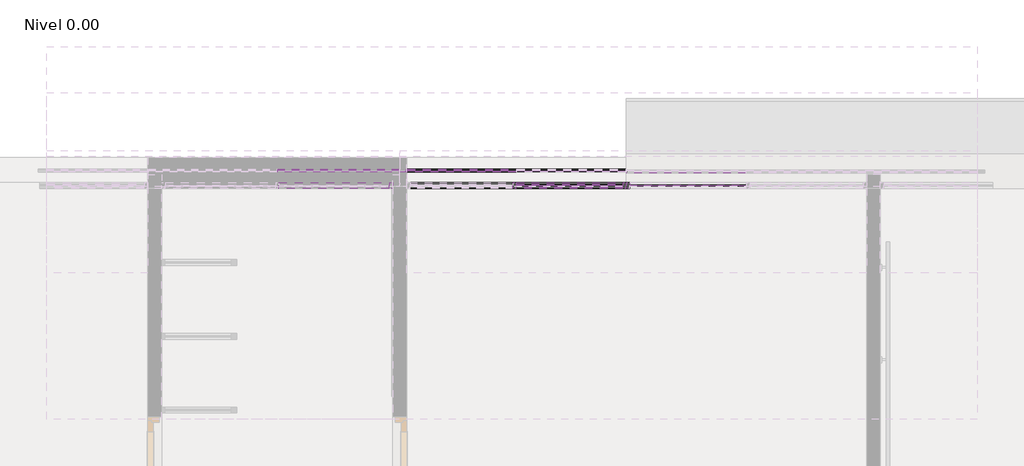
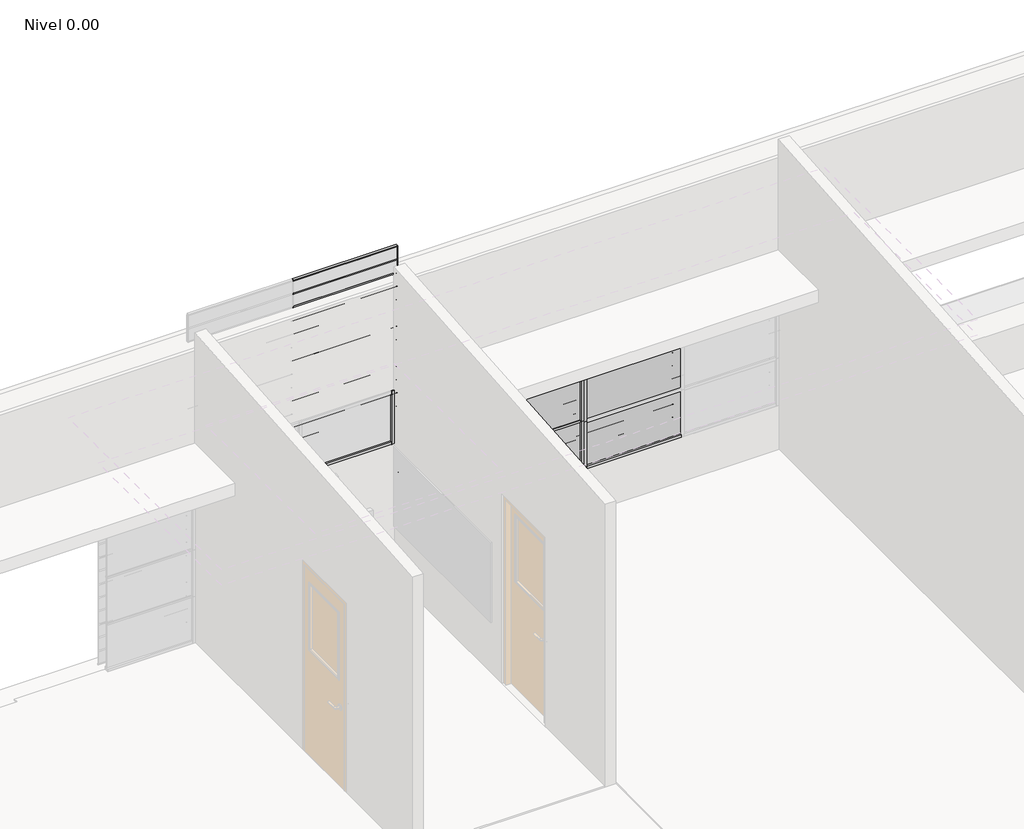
# One storey, part 21 of 27: 99 members, 35 plates.
"""IFC4 building model written with IfcOpenShell, lengths in millimetres."""

from ifc_helpers import new_model, si_unit, origin, place, context, project, spatial, transform, mapped, element, save
from components import circular_mullion_1dead5a5, circular_mullion_e1cfff8a, l_corner_mullion_bdbcb013, l_corner_mullion_3f4548f9, l_corner_mullion_de296168, rectangular_mullion_795f11c4, rectangular_mullion_4771c1cd, rectangular_mullion_fd73bc33, rectangular_mullion_cf28ff6b, rectangular_mullion_62a8ddbd, rectangular_mullion_f7ba8490, rectangular_mullion_f4ea7fa0, rectangular_mullion_e1952a32, rectangular_mullion_b22e6fb3, rectangular_mullion_4732226b, rectangular_mullion_bccfeea3, rectangular_mullion_9fa35bb9, system_panel_30204105, system_panel_792cbea5, system_panel_glazed_16c97444, system_panel_glazed_0a5ee570, system_panel_glazed_7bde68a8, system_panel_glazed_a5e376ae

model = new_model("IFC4")

# Units and contexts
model_context = context("Model", 3, world=origin())
ifc_project = project(units=[si_unit("LENGTHUNIT", "METRE", prefix="MILLI")], contexts=[model_context])

# Site, building, storey
site = spatial("IfcSite", under=ifc_project)
building = spatial("IfcBuilding", under=site)
storey = spatial("IfcBuildingStorey", under=building, Name="Nivel 0.00", Elevation=0.0)

# Members
placement = place(None, origin())
circular_mullion_shape = circular_mullion_1dead5a5(model_context)
element("IfcMember", 1, ObjectType="Circular Mullion : ARQ_HERR_16mm", at=placement, inside=storey, context=model_context, shape_type="MappedRepresentation", body=[
    mapped(circular_mullion_shape, transform((5468.4935187, 6959.43912, 1650.0), x_axis=(0.0, 0.0, 1.0), y_axis=(0.0, -1.0, 0.0), z_axis=(1.0, 0.0, 0.0))),
])
element("IfcMember", 2, ObjectType="Circular Mullion : ARQ_HERR_16mm", at=placement, inside=storey, context=model_context, shape_type="MappedRepresentation", body=[
    mapped(circular_mullion_shape, transform((5468.4935187, 6959.43912, 1800.0), x_axis=(0.0, 0.0, 1.0), y_axis=(0.0, -1.0, 0.0), z_axis=(1.0, 0.0, 0.0))),
])
element("IfcMember", 3, ObjectType="Circular Mullion : ARQ_HERR_16mm", at=placement, inside=storey, context=model_context, shape_type="MappedRepresentation", body=[
    mapped(circular_mullion_shape, transform((5468.4935187, 6959.43912, 1950.0), x_axis=(0.0, 0.0, 1.0), y_axis=(0.0, -1.0, 0.0), z_axis=(1.0, 0.0, 0.0))),
])
element("IfcMember", 4, ObjectType="Circular Mullion : ARQ_HERR_16mm", at=placement, inside=storey, context=model_context, shape_type="MappedRepresentation", body=[
    mapped(circular_mullion_shape, transform((5468.4935187, 6959.43912, 2100.0), x_axis=(0.0, 0.0, 1.0), y_axis=(0.0, -1.0, 0.0), z_axis=(1.0, 0.0, 0.0))),
])
element("IfcMember", 5, ObjectType="Circular Mullion : ARQ_HERR_16mm", at=placement, inside=storey, context=model_context, shape_type="MappedRepresentation", body=[
    mapped(circular_mullion_shape, transform((5468.4935187, 6959.43912, 2250.0), x_axis=(0.0, 0.0, 1.0), y_axis=(0.0, -1.0, 0.0), z_axis=(1.0, 0.0, 0.0))),
])
element("IfcMember", 6, ObjectType="Circular Mullion : ARQ_HERR_16mm", at=placement, inside=storey, context=model_context, shape_type="MappedRepresentation", body=[
    mapped(circular_mullion_shape, transform((5468.4935187, 6959.43912, 2400.0), x_axis=(0.0, 0.0, 1.0), y_axis=(0.0, -1.0, 0.0), z_axis=(1.0, 0.0, 0.0))),
])
element("IfcMember", 7, ObjectType="Circular Mullion : ARQ_HERR_16mm", at=placement, inside=storey, context=model_context, shape_type="MappedRepresentation", body=[
    mapped(circular_mullion_shape, transform((5468.4935187, 6959.43912, 2550.0), x_axis=(0.0, 0.0, 1.0), y_axis=(0.0, -1.0, 0.0), z_axis=(1.0, 0.0, 0.0))),
])
element("IfcMember", 8, ObjectType="Circular Mullion : ARQ_HERR_16mm", at=placement, inside=storey, context=model_context, shape_type="MappedRepresentation", body=[
    mapped(circular_mullion_shape, transform((5468.4935187, 6959.43912, 2700.0), x_axis=(0.0, 0.0, 1.0), y_axis=(0.0, -1.0, 0.0), z_axis=(1.0, 0.0, 0.0))),
])
element("IfcMember", 9, ObjectType="Circular Mullion : ARQ_HERR_16mm", at=placement, inside=storey, context=model_context, shape_type="MappedRepresentation", body=[
    mapped(circular_mullion_shape, transform((5468.4935187, 6959.43912, 2850.0), x_axis=(0.0, 0.0, 1.0), y_axis=(0.0, -1.0, 0.0), z_axis=(1.0, 0.0, 0.0))),
])
element("IfcMember", 10, ObjectType="Circular Mullion : ARQ_HERR_16mm", at=placement, inside=storey, context=model_context, shape_type="MappedRepresentation", body=[
    mapped(circular_mullion_shape, transform((5468.4935187, 6959.43912, 3000.0), x_axis=(0.0, 0.0, 1.0), y_axis=(0.0, -1.0, 0.0), z_axis=(1.0, 0.0, 0.0))),
])
element("IfcMember", 11, ObjectType="Circular Mullion : ARQ_HERR_16mm", at=placement, inside=storey, context=model_context, shape_type="MappedRepresentation", body=[
    mapped(circular_mullion_shape, transform((5468.4935187, 6959.43912, 3150.0), x_axis=(0.0, 0.0, 1.0), y_axis=(0.0, -1.0, 0.0), z_axis=(1.0, 0.0, 0.0))),
])
element("IfcMember", 12, ObjectType="Circular Mullion : ARQ_HERR_16mm", at=placement, inside=storey, context=model_context, shape_type="MappedRepresentation", body=[
    mapped(circular_mullion_shape, transform((5468.4935187, 6959.43912, 3300.0), x_axis=(0.0, 0.0, 1.0), y_axis=(0.0, -1.0, 0.0), z_axis=(1.0, 0.0, 0.0))),
])
element("IfcMember", 13, ObjectType="Circular Mullion : ARQ_HERR_16mm", at=placement, inside=storey, context=model_context, shape_type="MappedRepresentation", body=[
    mapped(circular_mullion_shape, transform((5468.4935187, 6959.43912, 3450.0), x_axis=(0.0, 0.0, 1.0), y_axis=(0.0, -1.0, 0.0), z_axis=(1.0, 0.0, 0.0))),
])
circular_mullion_2_shape = circular_mullion_e1cfff8a(model_context)
element("IfcMember", 14, ObjectType="Circular Mullion : ARQ_HERR_16mm", at=placement, inside=storey, context=model_context, shape_type="MappedRepresentation", body=[
    mapped(circular_mullion_2_shape, transform((6421.6892154, 6959.43912, 150.0), x_axis=(0.0, 0.0, 1.0), y_axis=(0.0, -1.0, 0.0), z_axis=(1.0, 0.0, 0.0))),
])
element("IfcMember", 15, ObjectType="Circular Mullion : ARQ_HERR_16mm", at=placement, inside=storey, context=model_context, shape_type="MappedRepresentation", body=[
    mapped(circular_mullion_2_shape, transform((6421.6892154, 6959.43912, 300.0), x_axis=(0.0, 0.0, 1.0), y_axis=(0.0, -1.0, 0.0), z_axis=(1.0, 0.0, 0.0))),
])
element("IfcMember", 16, ObjectType="Circular Mullion : ARQ_HERR_16mm", at=placement, inside=storey, context=model_context, shape_type="MappedRepresentation", body=[
    mapped(circular_mullion_2_shape, transform((6421.6892154, 6959.43912, 450.0), x_axis=(0.0, 0.0, 1.0), y_axis=(0.0, -1.0, 0.0), z_axis=(1.0, 0.0, 0.0))),
])
element("IfcMember", 17, ObjectType="Circular Mullion : ARQ_HERR_16mm", at=placement, inside=storey, context=model_context, shape_type="MappedRepresentation", body=[
    mapped(circular_mullion_2_shape, transform((6421.6892154, 6959.43912, 600.0), x_axis=(0.0, 0.0, 1.0), y_axis=(0.0, -1.0, 0.0), z_axis=(1.0, 0.0, 0.0))),
])
element("IfcMember", 18, ObjectType="Circular Mullion : ARQ_HERR_16mm", at=placement, inside=storey, context=model_context, shape_type="MappedRepresentation", body=[
    mapped(circular_mullion_2_shape, transform((6421.6892154, 6959.43912, 750.0), x_axis=(0.0, 0.0, 1.0), y_axis=(0.0, -1.0, 0.0), z_axis=(1.0, 0.0, 0.0))),
])
element("IfcMember", 19, ObjectType="Circular Mullion : ARQ_HERR_16mm", at=placement, inside=storey, context=model_context, shape_type="MappedRepresentation", body=[
    mapped(circular_mullion_2_shape, transform((6421.6892154, 6959.43912, 900.0), x_axis=(0.0, 0.0, 1.0), y_axis=(0.0, -1.0, 0.0), z_axis=(1.0, 0.0, 0.0))),
])
element("IfcMember", 20, ObjectType="Circular Mullion : ARQ_HERR_16mm", at=placement, inside=storey, context=model_context, shape_type="MappedRepresentation", body=[
    mapped(circular_mullion_2_shape, transform((6421.6892154, 6959.43912, 1050.0), x_axis=(0.0, 0.0, 1.0), y_axis=(0.0, -1.0, 0.0), z_axis=(1.0, 0.0, 0.0))),
])
element("IfcMember", 21, ObjectType="Circular Mullion : ARQ_HERR_16mm", at=placement, inside=storey, context=model_context, shape_type="MappedRepresentation", body=[
    mapped(circular_mullion_2_shape, transform((6421.6892154, 6959.43912, 1200.0), x_axis=(0.0, 0.0, 1.0), y_axis=(0.0, -1.0, 0.0), z_axis=(1.0, 0.0, 0.0))),
])
element("IfcMember", 22, ObjectType="Circular Mullion : ARQ_HERR_16mm", at=placement, inside=storey, context=model_context, shape_type="MappedRepresentation", body=[
    mapped(circular_mullion_2_shape, transform((6421.6892154, 6959.43912, 1350.0), x_axis=(0.0, 0.0, 1.0), y_axis=(0.0, -1.0, 0.0), z_axis=(1.0, 0.0, 0.0))),
])
element("IfcMember", 23, ObjectType="Circular Mullion : ARQ_HERR_16mm", at=placement, inside=storey, context=model_context, shape_type="MappedRepresentation", body=[
    mapped(circular_mullion_2_shape, transform((6421.6892154, 6959.43912, 1500.0), x_axis=(0.0, 0.0, 1.0), y_axis=(0.0, -1.0, 0.0), z_axis=(1.0, 0.0, 0.0))),
])
element("IfcMember", 24, ObjectType="Circular Mullion : ARQ_HERR_16mm", at=placement, inside=storey, context=model_context, shape_type="MappedRepresentation", body=[
    mapped(circular_mullion_2_shape, transform((6421.6892154, 6959.43912, 1650.0), x_axis=(0.0, 0.0, 1.0), y_axis=(0.0, -1.0, 0.0), z_axis=(1.0, 0.0, 0.0))),
])
element("IfcMember", 25, ObjectType="Circular Mullion : ARQ_HERR_16mm", at=placement, inside=storey, context=model_context, shape_type="MappedRepresentation", body=[
    mapped(circular_mullion_2_shape, transform((6421.6892154, 6959.43912, 1800.0), x_axis=(0.0, 0.0, 1.0), y_axis=(0.0, -1.0, 0.0), z_axis=(1.0, 0.0, 0.0))),
])
element("IfcMember", 26, ObjectType="Circular Mullion : ARQ_HERR_16mm", at=placement, inside=storey, context=model_context, shape_type="MappedRepresentation", body=[
    mapped(circular_mullion_2_shape, transform((6421.6892154, 6959.43912, 1950.0), x_axis=(0.0, 0.0, 1.0), y_axis=(0.0, -1.0, 0.0), z_axis=(1.0, 0.0, 0.0))),
])
l_corner_mullion_shape = l_corner_mullion_bdbcb013(model_context)
element("IfcMember", 27, ObjectType="L Corner Mullion : ARQ_HERR_15X6mm", at=placement, inside=storey, context=model_context, shape_type="MappedRepresentation", body=[
    mapped(l_corner_mullion_shape, transform((5468.4935187, 6959.43912, 3600.0), x_axis=(0.0, 0.0, 1.0), y_axis=(0.0, -1.0, 0.0), z_axis=(1.0, 0.0, 0.0))),
])
l_corner_mullion_2_shape = l_corner_mullion_3f4548f9(model_context)
element("IfcMember", 28, ObjectType="L Corner Mullion : ARQ_HERR_15X6mm", at=placement, inside=storey, context=model_context, shape_type="MappedRepresentation", body=[
    mapped(l_corner_mullion_2_shape, transform((7380.8238418, 6959.4460983, 2100.0), x_axis=(0.0, 0.0, 1.0), y_axis=(0.0, 1.0, 0.0), z_axis=(-1.0, 0.0, 0.0))),
])
l_corner_mullion_3_shape = l_corner_mullion_de296168(model_context)
element("IfcMember", 29, ObjectType="L Corner Mullion : ARQ_HERR_15X6mm", at=placement, inside=storey, context=model_context, shape_type="MappedRepresentation", body=[
    mapped(l_corner_mullion_3_shape, transform((6421.6892154, 6959.43912, 2100.0), x_axis=(0.0, 0.0, 1.0), y_axis=(0.0, -1.0, 0.0), z_axis=(1.0, 0.0, 0.0))),
])
element("IfcMember", 30, ObjectType="L Corner Mullion : ARQ_HERR_15X6mm", at=placement, inside=storey, context=model_context, shape_type="MappedRepresentation", body=[
    mapped(l_corner_mullion_3_shape, transform((5480.7169409, 6959.43912, 0.0), x_axis=(0.0, 0.0, -1.0), y_axis=(0.0, -1.0, 0.0), z_axis=(-1.0, 0.0, 0.0))),
])
element("IfcMember", 31, ObjectType="L Corner Mullion : ARQ_HERR_15X6mm", at=placement, inside=storey, context=model_context, shape_type="MappedRepresentation", body=[
    mapped(l_corner_mullion_3_shape, transform((6427.6892154, 6959.43912, 0.0), x_axis=(0.0, 0.0, -1.0), y_axis=(0.0, -1.0, 0.0), z_axis=(-1.0, 0.0, 0.0))),
])
rectangular_mullion_shape = rectangular_mullion_795f11c4(model_context)
element("IfcMember", 32, ObjectType="Rectangular Mullion : ARQ_TV_MULL_50x30mm", at=placement, inside=storey, context=model_context, shape_type="MappedRepresentation", body=[
    mapped(rectangular_mullion_shape, transform((6424.6586802, 6834.4460983, 2100.0), x_axis=(0.0, 0.0, 1.0), y_axis=(0.0, 1.0, 0.0), z_axis=(-1.0, 0.0, 0.0))),
])
rectangular_mullion_2_shape = rectangular_mullion_4771c1cd(model_context)
element("IfcMember", 33, ObjectType="Rectangular Mullion : ARQ_TV_MULL_50x30mm", at=placement, inside=storey, context=model_context, shape_type="MappedRepresentation", body=[
    mapped(rectangular_mullion_2_shape, transform((6394.6586802, 6834.4460983, 0.0), x_axis=(0.0, 0.0, -1.0), y_axis=(0.0, 1.0, 0.0), z_axis=(1.0, 0.0, 0.0))),
])
element("IfcMember", 34, ObjectType="Rectangular Mullion : ARQ_TV_MULL_50x30mm", at=placement, inside=storey, context=model_context, shape_type="MappedRepresentation", body=[
    mapped(rectangular_mullion_shape, transform((7344.8238418, 6834.4460983, 0.0), x_axis=(0.0, 0.0, -1.0), y_axis=(0.0, 1.0, 0.0), z_axis=(1.0, 0.0, 0.0))),
])
rectangular_mullion_3_shape = rectangular_mullion_fd73bc33(model_context)
element("IfcMember", 35, ObjectType="Rectangular Mullion : ARQ_TV_MULL_50x30mm", at=placement, inside=storey, context=model_context, shape_type="MappedRepresentation", body=[
    mapped(rectangular_mullion_3_shape, transform((6409.6586802, 6834.4460983, 0.0), x_axis=(-1.0, 0.0, 0.0), y_axis=(0.0, 1.0, 0.0), z_axis=(0.0, 0.0, -1.0))),
])
element("IfcMember", 36, ObjectType="Rectangular Mullion : ARQ_TV_MULL_50x30mm", at=placement, inside=storey, context=model_context, shape_type="MappedRepresentation", body=[
    mapped(rectangular_mullion_3_shape, transform((6409.6586802, 6834.4460983, 525.0), x_axis=(-1.0, 0.0, 0.0), y_axis=(0.0, 1.0, 0.0), z_axis=(0.0, 0.0, -1.0))),
])
element("IfcMember", 37, ObjectType="Rectangular Mullion : ARQ_TV_MULL_50x30mm", at=placement, inside=storey, context=model_context, shape_type="MappedRepresentation", body=[
    mapped(rectangular_mullion_3_shape, transform((6409.6586802, 6834.4460983, 1050.0), x_axis=(-1.0, 0.0, 0.0), y_axis=(0.0, 1.0, 0.0), z_axis=(0.0, 0.0, -1.0))),
])
element("IfcMember", 38, ObjectType="Rectangular Mullion : ARQ_TV_MULL_50x30mm", at=placement, inside=storey, context=model_context, shape_type="MappedRepresentation", body=[
    mapped(rectangular_mullion_3_shape, transform((6409.6586802, 6834.4460983, 1575.0), x_axis=(-1.0, 0.0, 0.0), y_axis=(0.0, 1.0, 0.0), z_axis=(0.0, 0.0, -1.0))),
])
rectangular_mullion_4_shape = rectangular_mullion_cf28ff6b(model_context)
element("IfcMember", 39, ObjectType="Rectangular Mullion : ARQ_TV_MULL_30x20mm", at=placement, inside=storey, context=model_context, shape_type="MappedRepresentation", body=[
    mapped(rectangular_mullion_4_shape, transform((6424.6586802, 6834.4460983, 525.0), x_axis=(0.0, 0.0, 1.0), y_axis=(0.0, 1.0, 0.0), z_axis=(-1.0, 0.0, 0.0))),
])
element("IfcMember", 40, ObjectType="Rectangular Mullion : ARQ_TV_MULL_30x20mm", at=placement, inside=storey, context=model_context, shape_type="MappedRepresentation", body=[
    mapped(rectangular_mullion_4_shape, transform((6424.6586802, 6834.4460983, 1050.0), x_axis=(0.0, 0.0, 1.0), y_axis=(0.0, 1.0, 0.0), z_axis=(-1.0, 0.0, 0.0))),
])
element("IfcMember", 41, ObjectType="Rectangular Mullion : ARQ_TV_MULL_30x20mm", at=placement, inside=storey, context=model_context, shape_type="MappedRepresentation", body=[
    mapped(rectangular_mullion_4_shape, transform((6424.6586802, 6834.4460983, 1575.0), x_axis=(0.0, 0.0, 1.0), y_axis=(0.0, 1.0, 0.0), z_axis=(-1.0, 0.0, 0.0))),
])
rectangular_mullion_5_shape = rectangular_mullion_62a8ddbd(model_context)
element("IfcMember", 42, ObjectType="Rectangular Mullion : ARQ_TV_MULL_50x30mm", at=placement, inside=storey, context=model_context, shape_type="MappedRepresentation", body=[
    mapped(rectangular_mullion_5_shape, transform((7374.8238418, 6834.4460983, 2100.0), x_axis=(1.0, 0.0, 0.0), y_axis=(0.0, 1.0, 0.0), z_axis=(0.0, 0.0, 1.0))),
])
element("IfcMember", 43, ObjectType="Rectangular Mullion : ARQ_TV_MULL_50x30mm", at=placement, inside=storey, context=model_context, shape_type="MappedRepresentation", body=[
    mapped(rectangular_mullion_5_shape, transform((7374.8238418, 6834.4460983, 525.0), x_axis=(1.0, 0.0, 0.0), y_axis=(0.0, 1.0, 0.0), z_axis=(0.0, 0.0, 1.0))),
])
element("IfcMember", 44, ObjectType="Rectangular Mullion : ARQ_TV_MULL_50x30mm", at=placement, inside=storey, context=model_context, shape_type="MappedRepresentation", body=[
    mapped(rectangular_mullion_5_shape, transform((7374.8238418, 6834.4460983, 1050.0), x_axis=(1.0, 0.0, 0.0), y_axis=(0.0, 1.0, 0.0), z_axis=(0.0, 0.0, 1.0))),
])
element("IfcMember", 45, ObjectType="Rectangular Mullion : ARQ_TV_MULL_50x30mm", at=placement, inside=storey, context=model_context, shape_type="MappedRepresentation", body=[
    mapped(rectangular_mullion_5_shape, transform((7374.8238418, 6834.4460983, 1575.0), x_axis=(1.0, 0.0, 0.0), y_axis=(0.0, 1.0, 0.0), z_axis=(0.0, 0.0, 1.0))),
])
rectangular_mullion_6_shape = rectangular_mullion_f7ba8490(model_context)
element("IfcMember", 46, ObjectType="Rectangular Mullion : ARQ_TV_MULL_50x30mm", at=placement, inside=storey, context=model_context, shape_type="MappedRepresentation", body=[
    mapped(rectangular_mullion_6_shape, transform((7374.8238418, 6834.4460983, 2100.0), x_axis=(-1.0, 0.0, 0.0), y_axis=(0.0, -1.0, 0.0), z_axis=(0.0, 0.0, 1.0))),
])
element("IfcMember", 47, ObjectType="Rectangular Mullion : ARQ_TV_MULL_50x30mm", at=placement, inside=storey, context=model_context, shape_type="MappedRepresentation", body=[
    mapped(rectangular_mullion_6_shape, transform((7374.8238418, 6834.4460983, 1033.3333333), x_axis=(-1.0, 0.0, 0.0), y_axis=(0.0, -1.0, 0.0), z_axis=(0.0, 0.0, 1.0))),
])
element("IfcMember", 48, ObjectType="Rectangular Mullion : ARQ_TV_MULL_50x30mm", at=placement, inside=storey, context=model_context, shape_type="MappedRepresentation", body=[
    mapped(rectangular_mullion_6_shape, transform((7374.8238418, 6834.4460983, 1566.6666667), x_axis=(-1.0, 0.0, 0.0), y_axis=(0.0, -1.0, 0.0), z_axis=(0.0, 0.0, 1.0))),
])
rectangular_mullion_7_shape = rectangular_mullion_f4ea7fa0(model_context)
element("IfcMember", 49, ObjectType="Rectangular Mullion : ARQ_TV_MULL_50x30mm", at=placement, inside=storey, context=model_context, shape_type="MappedRepresentation", body=[
    mapped(rectangular_mullion_7_shape, transform((5354.4935187, 6834.4460983, 2100.0), x_axis=(1.0, 0.0, 0.0), y_axis=(0.0, 1.0, 0.0), z_axis=(0.0, 0.0, 1.0))),
])
rectangular_mullion_8_shape = rectangular_mullion_e1952a32(model_context)
element("IfcMember", 50, ObjectType="Rectangular Mullion : ARQ_TV_MULL_50x30mm", at=placement, inside=storey, context=model_context, shape_type="MappedRepresentation", body=[
    mapped(rectangular_mullion_8_shape, transform((7404.8238418, 6834.4460983, 500.0), x_axis=(0.0, 0.0, -1.0), y_axis=(0.0, -1.0, 0.0), z_axis=(-1.0, 0.0, 0.0))),
])
rectangular_mullion_9_shape = rectangular_mullion_b22e6fb3(model_context)
element("IfcMember", 51, ObjectType="Rectangular Mullion : ARQ_TV_MULL_50x30mm", at=placement, inside=storey, context=model_context, shape_type="MappedRepresentation", body=[
    mapped(rectangular_mullion_9_shape, transform((5324.4935187, 6834.4460983, 1500.0), x_axis=(0.0, 0.0, -1.0), y_axis=(0.0, 1.0, 0.0), z_axis=(1.0, 0.0, 0.0))),
])
rectangular_mullion_10_shape = rectangular_mullion_4732226b(model_context)
element("IfcMember", 52, ObjectType="Rectangular Mullion : ARQ_HERR_15X6mm", at=placement, inside=storey, context=model_context, shape_type="MappedRepresentation", body=[
    mapped(rectangular_mullion_10_shape, transform((6424.6892154, 6959.43912, 0.0), x_axis=(1.0, 0.0, 0.0), y_axis=(0.0, -1.0, 0.0), z_axis=(0.0, 0.0, -1.0))),
])
element("IfcMember", 53, ObjectType="Rectangular Mullion : ARQ_HERR_15X6mm", at=placement, inside=storey, context=model_context, shape_type="MappedRepresentation", body=[
    mapped(rectangular_mullion_10_shape, transform((6424.6892154, 6959.43912, 150.0), x_axis=(1.0, 0.0, 0.0), y_axis=(0.0, -1.0, 0.0), z_axis=(0.0, 0.0, -1.0))),
])
element("IfcMember", 54, ObjectType="Rectangular Mullion : ARQ_HERR_15X6mm", at=placement, inside=storey, context=model_context, shape_type="MappedRepresentation", body=[
    mapped(rectangular_mullion_10_shape, transform((6424.6892154, 6959.43912, 300.0), x_axis=(1.0, 0.0, 0.0), y_axis=(0.0, -1.0, 0.0), z_axis=(0.0, 0.0, -1.0))),
])
element("IfcMember", 55, ObjectType="Rectangular Mullion : ARQ_HERR_15X6mm", at=placement, inside=storey, context=model_context, shape_type="MappedRepresentation", body=[
    mapped(rectangular_mullion_10_shape, transform((6424.6892154, 6959.43912, 450.0), x_axis=(1.0, 0.0, 0.0), y_axis=(0.0, -1.0, 0.0), z_axis=(0.0, 0.0, -1.0))),
])
element("IfcMember", 56, ObjectType="Rectangular Mullion : ARQ_HERR_15X6mm", at=placement, inside=storey, context=model_context, shape_type="MappedRepresentation", body=[
    mapped(rectangular_mullion_10_shape, transform((6424.6892154, 6959.43912, 600.0), x_axis=(1.0, 0.0, 0.0), y_axis=(0.0, -1.0, 0.0), z_axis=(0.0, 0.0, -1.0))),
])
element("IfcMember", 57, ObjectType="Rectangular Mullion : ARQ_HERR_15X6mm", at=placement, inside=storey, context=model_context, shape_type="MappedRepresentation", body=[
    mapped(rectangular_mullion_10_shape, transform((6424.6892154, 6959.43912, 750.0), x_axis=(1.0, 0.0, 0.0), y_axis=(0.0, -1.0, 0.0), z_axis=(0.0, 0.0, -1.0))),
])
element("IfcMember", 58, ObjectType="Rectangular Mullion : ARQ_HERR_15X6mm", at=placement, inside=storey, context=model_context, shape_type="MappedRepresentation", body=[
    mapped(rectangular_mullion_10_shape, transform((6424.6892154, 6959.43912, 900.0), x_axis=(1.0, 0.0, 0.0), y_axis=(0.0, -1.0, 0.0), z_axis=(0.0, 0.0, -1.0))),
])
element("IfcMember", 59, ObjectType="Rectangular Mullion : ARQ_HERR_15X6mm", at=placement, inside=storey, context=model_context, shape_type="MappedRepresentation", body=[
    mapped(rectangular_mullion_10_shape, transform((6424.6892154, 6959.43912, 1050.0), x_axis=(1.0, 0.0, 0.0), y_axis=(0.0, -1.0, 0.0), z_axis=(0.0, 0.0, -1.0))),
])
element("IfcMember", 60, ObjectType="Rectangular Mullion : ARQ_HERR_15X6mm", at=placement, inside=storey, context=model_context, shape_type="MappedRepresentation", body=[
    mapped(rectangular_mullion_10_shape, transform((6424.6892154, 6959.43912, 1200.0), x_axis=(1.0, 0.0, 0.0), y_axis=(0.0, -1.0, 0.0), z_axis=(0.0, 0.0, -1.0))),
])
element("IfcMember", 61, ObjectType="Rectangular Mullion : ARQ_HERR_15X6mm", at=placement, inside=storey, context=model_context, shape_type="MappedRepresentation", body=[
    mapped(rectangular_mullion_10_shape, transform((6424.6892154, 6959.43912, 1350.0), x_axis=(1.0, 0.0, 0.0), y_axis=(0.0, -1.0, 0.0), z_axis=(0.0, 0.0, -1.0))),
])
element("IfcMember", 62, ObjectType="Rectangular Mullion : ARQ_HERR_15X6mm", at=placement, inside=storey, context=model_context, shape_type="MappedRepresentation", body=[
    mapped(rectangular_mullion_10_shape, transform((6424.6892154, 6959.43912, 1500.0), x_axis=(1.0, 0.0, 0.0), y_axis=(0.0, -1.0, 0.0), z_axis=(0.0, 0.0, -1.0))),
])
element("IfcMember", 63, ObjectType="Rectangular Mullion : ARQ_HERR_15X6mm", at=placement, inside=storey, context=model_context, shape_type="MappedRepresentation", body=[
    mapped(rectangular_mullion_10_shape, transform((6424.6892154, 6959.43912, 1650.0), x_axis=(1.0, 0.0, 0.0), y_axis=(0.0, -1.0, 0.0), z_axis=(0.0, 0.0, -1.0))),
])
element("IfcMember", 64, ObjectType="Rectangular Mullion : ARQ_HERR_15X6mm", at=placement, inside=storey, context=model_context, shape_type="MappedRepresentation", body=[
    mapped(rectangular_mullion_10_shape, transform((6424.6892154, 6959.43912, 1800.0), x_axis=(1.0, 0.0, 0.0), y_axis=(0.0, -1.0, 0.0), z_axis=(0.0, 0.0, -1.0))),
])
rectangular_mullion_11_shape = rectangular_mullion_bccfeea3(model_context)
element("IfcMember", 65, ObjectType="Rectangular Mullion : ARQ_HERR_15X6mm", at=placement, inside=storey, context=model_context, shape_type="MappedRepresentation", body=[
    mapped(rectangular_mullion_11_shape, transform((5474.4935187, 6959.43912, 1500.0), x_axis=(1.0, 0.0, 0.0), y_axis=(0.0, -1.0, 0.0), z_axis=(0.0, 0.0, -1.0))),
])
element("IfcMember", 66, ObjectType="Rectangular Mullion : ARQ_HERR_15X6mm", at=placement, inside=storey, context=model_context, shape_type="MappedRepresentation", body=[
    mapped(rectangular_mullion_11_shape, transform((5474.4935187, 6959.43912, 1650.0), x_axis=(1.0, 0.0, 0.0), y_axis=(0.0, -1.0, 0.0), z_axis=(0.0, 0.0, -1.0))),
])
element("IfcMember", 67, ObjectType="Rectangular Mullion : ARQ_HERR_15X6mm", at=placement, inside=storey, context=model_context, shape_type="MappedRepresentation", body=[
    mapped(rectangular_mullion_11_shape, transform((5474.4935187, 6959.43912, 1800.0), x_axis=(1.0, 0.0, 0.0), y_axis=(0.0, -1.0, 0.0), z_axis=(0.0, 0.0, -1.0))),
])
element("IfcMember", 68, ObjectType="Rectangular Mullion : ARQ_HERR_15X6mm", at=placement, inside=storey, context=model_context, shape_type="MappedRepresentation", body=[
    mapped(rectangular_mullion_11_shape, transform((5474.4935187, 6959.43912, 1950.0), x_axis=(1.0, 0.0, 0.0), y_axis=(0.0, -1.0, 0.0), z_axis=(0.0, 0.0, -1.0))),
])
element("IfcMember", 69, ObjectType="Rectangular Mullion : ARQ_HERR_15X6mm", at=placement, inside=storey, context=model_context, shape_type="MappedRepresentation", body=[
    mapped(rectangular_mullion_11_shape, transform((5474.4935187, 6959.43912, 2100.0), x_axis=(1.0, 0.0, 0.0), y_axis=(0.0, -1.0, 0.0), z_axis=(0.0, 0.0, -1.0))),
])
element("IfcMember", 70, ObjectType="Rectangular Mullion : ARQ_HERR_15X6mm", at=placement, inside=storey, context=model_context, shape_type="MappedRepresentation", body=[
    mapped(rectangular_mullion_11_shape, transform((5474.4935187, 6959.43912, 2250.0), x_axis=(1.0, 0.0, 0.0), y_axis=(0.0, -1.0, 0.0), z_axis=(0.0, 0.0, -1.0))),
])
element("IfcMember", 71, ObjectType="Rectangular Mullion : ARQ_HERR_15X6mm", at=placement, inside=storey, context=model_context, shape_type="MappedRepresentation", body=[
    mapped(rectangular_mullion_11_shape, transform((5474.4935187, 6959.43912, 2400.0), x_axis=(1.0, 0.0, 0.0), y_axis=(0.0, -1.0, 0.0), z_axis=(0.0, 0.0, -1.0))),
])
element("IfcMember", 72, ObjectType="Rectangular Mullion : ARQ_HERR_15X6mm", at=placement, inside=storey, context=model_context, shape_type="MappedRepresentation", body=[
    mapped(rectangular_mullion_11_shape, transform((5474.4935187, 6959.43912, 2550.0), x_axis=(1.0, 0.0, 0.0), y_axis=(0.0, -1.0, 0.0), z_axis=(0.0, 0.0, -1.0))),
])
element("IfcMember", 73, ObjectType="Rectangular Mullion : ARQ_HERR_15X6mm", at=placement, inside=storey, context=model_context, shape_type="MappedRepresentation", body=[
    mapped(rectangular_mullion_11_shape, transform((5474.4935187, 6959.43912, 2700.0), x_axis=(1.0, 0.0, 0.0), y_axis=(0.0, -1.0, 0.0), z_axis=(0.0, 0.0, -1.0))),
])
element("IfcMember", 74, ObjectType="Rectangular Mullion : ARQ_HERR_15X6mm", at=placement, inside=storey, context=model_context, shape_type="MappedRepresentation", body=[
    mapped(rectangular_mullion_11_shape, transform((5474.4935187, 6959.43912, 2850.0), x_axis=(1.0, 0.0, 0.0), y_axis=(0.0, -1.0, 0.0), z_axis=(0.0, 0.0, -1.0))),
])
element("IfcMember", 75, ObjectType="Rectangular Mullion : ARQ_HERR_15X6mm", at=placement, inside=storey, context=model_context, shape_type="MappedRepresentation", body=[
    mapped(rectangular_mullion_11_shape, transform((5474.4935187, 6959.43912, 3000.0), x_axis=(1.0, 0.0, 0.0), y_axis=(0.0, -1.0, 0.0), z_axis=(0.0, 0.0, -1.0))),
])
element("IfcMember", 76, ObjectType="Rectangular Mullion : ARQ_HERR_15X6mm", at=placement, inside=storey, context=model_context, shape_type="MappedRepresentation", body=[
    mapped(rectangular_mullion_11_shape, transform((5474.4935187, 6959.43912, 3150.0), x_axis=(1.0, 0.0, 0.0), y_axis=(0.0, -1.0, 0.0), z_axis=(0.0, 0.0, -1.0))),
])
element("IfcMember", 77, ObjectType="Rectangular Mullion : ARQ_HERR_15X6mm", at=placement, inside=storey, context=model_context, shape_type="MappedRepresentation", body=[
    mapped(rectangular_mullion_11_shape, transform((5474.4935187, 6959.43912, 3300.0), x_axis=(1.0, 0.0, 0.0), y_axis=(0.0, -1.0, 0.0), z_axis=(0.0, 0.0, -1.0))),
])
element("IfcMember", 78, ObjectType="Rectangular Mullion : ARQ_HERR_15X6mm", at=placement, inside=storey, context=model_context, shape_type="MappedRepresentation", body=[
    mapped(rectangular_mullion_11_shape, transform((5474.7169409, 6959.43912, 150.0), x_axis=(-1.0, 0.0, 0.0), y_axis=(0.0, -1.0, 0.0), z_axis=(0.0, 0.0, 1.0))),
])
element("IfcMember", 79, ObjectType="Rectangular Mullion : ARQ_HERR_15X6mm", at=placement, inside=storey, context=model_context, shape_type="MappedRepresentation", body=[
    mapped(rectangular_mullion_11_shape, transform((5474.7169409, 6959.43912, 300.0), x_axis=(-1.0, 0.0, 0.0), y_axis=(0.0, -1.0, 0.0), z_axis=(0.0, 0.0, 1.0))),
])
element("IfcMember", 80, ObjectType="Rectangular Mullion : ARQ_HERR_15X6mm", at=placement, inside=storey, context=model_context, shape_type="MappedRepresentation", body=[
    mapped(rectangular_mullion_11_shape, transform((5474.7169409, 6959.43912, 450.0), x_axis=(-1.0, 0.0, 0.0), y_axis=(0.0, -1.0, 0.0), z_axis=(0.0, 0.0, 1.0))),
])
element("IfcMember", 81, ObjectType="Rectangular Mullion : ARQ_HERR_15X6mm", at=placement, inside=storey, context=model_context, shape_type="MappedRepresentation", body=[
    mapped(rectangular_mullion_11_shape, transform((5474.7169409, 6959.43912, 600.0), x_axis=(-1.0, 0.0, 0.0), y_axis=(0.0, -1.0, 0.0), z_axis=(0.0, 0.0, 1.0))),
])
element("IfcMember", 82, ObjectType="Rectangular Mullion : ARQ_HERR_15X6mm", at=placement, inside=storey, context=model_context, shape_type="MappedRepresentation", body=[
    mapped(rectangular_mullion_11_shape, transform((5474.7169409, 6959.43912, 750.0), x_axis=(-1.0, 0.0, 0.0), y_axis=(0.0, -1.0, 0.0), z_axis=(0.0, 0.0, 1.0))),
])
element("IfcMember", 83, ObjectType="Rectangular Mullion : ARQ_HERR_15X6mm", at=placement, inside=storey, context=model_context, shape_type="MappedRepresentation", body=[
    mapped(rectangular_mullion_11_shape, transform((5474.7169409, 6959.43912, 900.0), x_axis=(-1.0, 0.0, 0.0), y_axis=(0.0, -1.0, 0.0), z_axis=(0.0, 0.0, 1.0))),
])
element("IfcMember", 84, ObjectType="Rectangular Mullion : ARQ_HERR_15X6mm", at=placement, inside=storey, context=model_context, shape_type="MappedRepresentation", body=[
    mapped(rectangular_mullion_11_shape, transform((5474.7169409, 6959.43912, 1050.0), x_axis=(-1.0, 0.0, 0.0), y_axis=(0.0, -1.0, 0.0), z_axis=(0.0, 0.0, 1.0))),
])
element("IfcMember", 85, ObjectType="Rectangular Mullion : ARQ_HERR_15X6mm", at=placement, inside=storey, context=model_context, shape_type="MappedRepresentation", body=[
    mapped(rectangular_mullion_11_shape, transform((5474.7169409, 6959.43912, 1200.0), x_axis=(-1.0, 0.0, 0.0), y_axis=(0.0, -1.0, 0.0), z_axis=(0.0, 0.0, 1.0))),
])
element("IfcMember", 86, ObjectType="Rectangular Mullion : ARQ_HERR_15X6mm", at=placement, inside=storey, context=model_context, shape_type="MappedRepresentation", body=[
    mapped(rectangular_mullion_11_shape, transform((5474.7169409, 6959.43912, 1350.0), x_axis=(-1.0, 0.0, 0.0), y_axis=(0.0, -1.0, 0.0), z_axis=(0.0, 0.0, 1.0))),
])
element("IfcMember", 87, ObjectType="Rectangular Mullion : ARQ_HERR_15X6mm", at=placement, inside=storey, context=model_context, shape_type="MappedRepresentation", body=[
    mapped(rectangular_mullion_11_shape, transform((5474.7169409, 6959.43912, 1500.0), x_axis=(-1.0, 0.0, 0.0), y_axis=(0.0, -1.0, 0.0), z_axis=(0.0, 0.0, 1.0))),
])
element("IfcMember", 88, ObjectType="Rectangular Mullion : ARQ_HERR_15X6mm", at=placement, inside=storey, context=model_context, shape_type="MappedRepresentation", body=[
    mapped(rectangular_mullion_11_shape, transform((5474.7169409, 6959.43912, 1650.0), x_axis=(-1.0, 0.0, 0.0), y_axis=(0.0, -1.0, 0.0), z_axis=(0.0, 0.0, 1.0))),
])
element("IfcMember", 89, ObjectType="Rectangular Mullion : ARQ_HERR_15X6mm", at=placement, inside=storey, context=model_context, shape_type="MappedRepresentation", body=[
    mapped(rectangular_mullion_11_shape, transform((5474.7169409, 6959.43912, 1800.0), x_axis=(-1.0, 0.0, 0.0), y_axis=(0.0, -1.0, 0.0), z_axis=(0.0, 0.0, 1.0))),
])
element("IfcMember", 90, ObjectType="Rectangular Mullion : ARQ_HERR_15X6mm", at=placement, inside=storey, context=model_context, shape_type="MappedRepresentation", body=[
    mapped(rectangular_mullion_11_shape, transform((5474.7169409, 6959.43912, 1950.0), x_axis=(-1.0, 0.0, 0.0), y_axis=(0.0, -1.0, 0.0), z_axis=(0.0, 0.0, 1.0))),
])
element("IfcMember", 91, ObjectType="Rectangular Mullion : ARQ_HERR_15X6mm", at=placement, inside=storey, context=model_context, shape_type="MappedRepresentation", body=[
    mapped(rectangular_mullion_10_shape, transform((6424.6892154, 6959.43912, 1950.0), x_axis=(1.0, 0.0, 0.0), y_axis=(0.0, -1.0, 0.0), z_axis=(0.0, 0.0, -1.0))),
])
element("IfcMember", 92, ObjectType="Rectangular Mullion : ARQ_HERR_15X6mm", at=placement, inside=storey, context=model_context, shape_type="MappedRepresentation", body=[
    mapped(rectangular_mullion_11_shape, transform((5474.7169409, 6959.43912, 2100.0), x_axis=(-1.0, 0.0, 0.0), y_axis=(0.0, -1.0, 0.0), z_axis=(0.0, 0.0, 1.0))),
])
element("IfcMember", 93, ObjectType="Rectangular Mullion : ARQ_HERR_15X6mm", at=placement, inside=storey, context=model_context, shape_type="MappedRepresentation", body=[
    mapped(rectangular_mullion_11_shape, transform((5474.4935187, 6959.43912, 3450.0), x_axis=(1.0, 0.0, 0.0), y_axis=(0.0, -1.0, 0.0), z_axis=(0.0, 0.0, -1.0))),
])
rectangular_mullion_12_shape = rectangular_mullion_9fa35bb9(model_context)
element("IfcMember", 94, ObjectType="Rectangular Mullion : ARQ_HERR_15X6mm", at=placement, inside=storey, context=model_context, shape_type="MappedRepresentation", body=[
    mapped(rectangular_mullion_12_shape, transform((7374.8238418, 6959.4460983, 500.0), x_axis=(-1.0, 0.0, 0.0), y_axis=(0.0, 1.0, 0.0), z_axis=(0.0, 0.0, -1.0))),
])
element("IfcMember", 95, ObjectType="Rectangular Mullion : ARQ_HERR_15X6mm", at=placement, inside=storey, context=model_context, shape_type="MappedRepresentation", body=[
    mapped(rectangular_mullion_12_shape, transform((7374.8238418, 6959.4460983, 645.4545455), x_axis=(-1.0, 0.0, 0.0), y_axis=(0.0, 1.0, 0.0), z_axis=(0.0, 0.0, -1.0))),
])
element("IfcMember", 96, ObjectType="Rectangular Mullion : ARQ_HERR_15X6mm", at=placement, inside=storey, context=model_context, shape_type="MappedRepresentation", body=[
    mapped(rectangular_mullion_12_shape, transform((7374.8238418, 6959.4460983, 790.9090909), x_axis=(-1.0, 0.0, 0.0), y_axis=(0.0, 1.0, 0.0), z_axis=(0.0, 0.0, -1.0))),
])
element("IfcMember", 97, ObjectType="Rectangular Mullion : ARQ_HERR_15X6mm", at=placement, inside=storey, context=model_context, shape_type="MappedRepresentation", body=[
    mapped(rectangular_mullion_12_shape, transform((7374.8238418, 6959.4460983, 936.3636364), x_axis=(-1.0, 0.0, 0.0), y_axis=(0.0, 1.0, 0.0), z_axis=(0.0, 0.0, -1.0))),
])
element("IfcMember", 98, ObjectType="Rectangular Mullion : ARQ_HERR_15X6mm", at=placement, inside=storey, context=model_context, shape_type="MappedRepresentation", body=[
    mapped(rectangular_mullion_12_shape, transform((7374.8238418, 6959.4460983, 1081.8181818), x_axis=(-1.0, 0.0, 0.0), y_axis=(0.0, 1.0, 0.0), z_axis=(0.0, 0.0, -1.0))),
])
element("IfcMember", 99, ObjectType="Rectangular Mullion : ARQ_HERR_15X6mm", at=placement, inside=storey, context=model_context, shape_type="MappedRepresentation", body=[
    mapped(rectangular_mullion_12_shape, transform((7374.8238418, 6959.4460983, 1227.2727273), x_axis=(-1.0, 0.0, 0.0), y_axis=(0.0, 1.0, 0.0), z_axis=(0.0, 0.0, -1.0))),
])

# Plates
system_panel_shape = system_panel_30204105(model_context)
element("IfcPlate", 100, ObjectType="System Panel : VACÍO", at=placement, inside=storey, context=model_context, shape_type="MappedRepresentation", body=[
    mapped(system_panel_shape, transform((5951.2030781, 6959.43912, 6.0), x_axis=(1.0, 0.0, 0.0), y_axis=(0.0, 1.0, 0.0), z_axis=(0.0, 0.0, 1.0))),
])
element("IfcPlate", 101, ObjectType="System Panel : VACÍO", at=placement, inside=storey, context=model_context, shape_type="MappedRepresentation", body=[
    mapped(system_panel_shape, transform((6898.1753526, 6959.43912, 6.0), x_axis=(1.0, 0.0, 0.0), y_axis=(0.0, 1.0, 0.0), z_axis=(0.0, 0.0, 1.0))),
])
element("IfcPlate", 102, ObjectType="System Panel : VACÍO", at=placement, inside=storey, context=model_context, shape_type="MappedRepresentation", body=[
    mapped(system_panel_shape, transform((5951.2030781, 6959.43912, 1958.0), x_axis=(1.0, 0.0, 0.0), y_axis=(0.0, 1.0, 0.0), z_axis=(0.0, 0.0, 1.0))),
])
element("IfcPlate", 103, ObjectType="System Panel : VACÍO", at=placement, inside=storey, context=model_context, shape_type="MappedRepresentation", body=[
    mapped(system_panel_shape, transform((6898.1753526, 6959.43912, 1958.0), x_axis=(1.0, 0.0, 0.0), y_axis=(0.0, 1.0, 0.0), z_axis=(0.0, 0.0, 1.0))),
])
system_panel_2_shape = system_panel_792cbea5(model_context)
element("IfcPlate", 104, ObjectType="System Panel : VACÍO", at=placement, inside=storey, context=model_context, shape_type="MappedRepresentation", body=[
    mapped(system_panel_2_shape, transform((5951.2030781, 6959.43912, 158.0), x_axis=(1.0, 0.0, 0.0), y_axis=(0.0, 1.0, 0.0), z_axis=(0.0, 0.0, 1.0))),
])
element("IfcPlate", 105, ObjectType="System Panel : VACÍO", at=placement, inside=storey, context=model_context, shape_type="MappedRepresentation", body=[
    mapped(system_panel_2_shape, transform((6898.1753526, 6959.43912, 158.0), x_axis=(1.0, 0.0, 0.0), y_axis=(0.0, 1.0, 0.0), z_axis=(0.0, 0.0, 1.0))),
])
element("IfcPlate", 106, ObjectType="System Panel : VACÍO", at=placement, inside=storey, context=model_context, shape_type="MappedRepresentation", body=[
    mapped(system_panel_2_shape, transform((5951.2030781, 6959.43912, 308.0), x_axis=(1.0, 0.0, 0.0), y_axis=(0.0, 1.0, 0.0), z_axis=(0.0, 0.0, 1.0))),
])
element("IfcPlate", 107, ObjectType="System Panel : VACÍO", at=placement, inside=storey, context=model_context, shape_type="MappedRepresentation", body=[
    mapped(system_panel_2_shape, transform((6898.1753526, 6959.43912, 308.0), x_axis=(1.0, 0.0, 0.0), y_axis=(0.0, 1.0, 0.0), z_axis=(0.0, 0.0, 1.0))),
])
element("IfcPlate", 108, ObjectType="System Panel : VACÍO", at=placement, inside=storey, context=model_context, shape_type="MappedRepresentation", body=[
    mapped(system_panel_2_shape, transform((5951.2030781, 6959.43912, 458.0), x_axis=(1.0, 0.0, 0.0), y_axis=(0.0, 1.0, 0.0), z_axis=(0.0, 0.0, 1.0))),
])
element("IfcPlate", 109, ObjectType="System Panel : VACÍO", at=placement, inside=storey, context=model_context, shape_type="MappedRepresentation", body=[
    mapped(system_panel_2_shape, transform((6898.1753526, 6959.43912, 458.0), x_axis=(1.0, 0.0, 0.0), y_axis=(0.0, 1.0, 0.0), z_axis=(0.0, 0.0, 1.0))),
])
element("IfcPlate", 110, ObjectType="System Panel : VACÍO", at=placement, inside=storey, context=model_context, shape_type="MappedRepresentation", body=[
    mapped(system_panel_2_shape, transform((5951.2030781, 6959.43912, 608.0), x_axis=(1.0, 0.0, 0.0), y_axis=(0.0, 1.0, 0.0), z_axis=(0.0, 0.0, 1.0))),
])
element("IfcPlate", 111, ObjectType="System Panel : VACÍO", at=placement, inside=storey, context=model_context, shape_type="MappedRepresentation", body=[
    mapped(system_panel_2_shape, transform((6898.1753526, 6959.43912, 608.0), x_axis=(1.0, 0.0, 0.0), y_axis=(0.0, 1.0, 0.0), z_axis=(0.0, 0.0, 1.0))),
])
element("IfcPlate", 112, ObjectType="System Panel : VACÍO", at=placement, inside=storey, context=model_context, shape_type="MappedRepresentation", body=[
    mapped(system_panel_2_shape, transform((5951.2030781, 6959.43912, 758.0), x_axis=(1.0, 0.0, 0.0), y_axis=(0.0, 1.0, 0.0), z_axis=(0.0, 0.0, 1.0))),
])
element("IfcPlate", 113, ObjectType="System Panel : VACÍO", at=placement, inside=storey, context=model_context, shape_type="MappedRepresentation", body=[
    mapped(system_panel_2_shape, transform((6898.1753526, 6959.43912, 758.0), x_axis=(1.0, 0.0, 0.0), y_axis=(0.0, 1.0, 0.0), z_axis=(0.0, 0.0, 1.0))),
])
element("IfcPlate", 114, ObjectType="System Panel : VACÍO", at=placement, inside=storey, context=model_context, shape_type="MappedRepresentation", body=[
    mapped(system_panel_2_shape, transform((5951.2030781, 6959.43912, 908.0), x_axis=(1.0, 0.0, 0.0), y_axis=(0.0, 1.0, 0.0), z_axis=(0.0, 0.0, 1.0))),
])
element("IfcPlate", 115, ObjectType="System Panel : VACÍO", at=placement, inside=storey, context=model_context, shape_type="MappedRepresentation", body=[
    mapped(system_panel_2_shape, transform((6898.1753526, 6959.43912, 908.0), x_axis=(1.0, 0.0, 0.0), y_axis=(0.0, 1.0, 0.0), z_axis=(0.0, 0.0, 1.0))),
])
element("IfcPlate", 116, ObjectType="System Panel : VACÍO", at=placement, inside=storey, context=model_context, shape_type="MappedRepresentation", body=[
    mapped(system_panel_2_shape, transform((5951.2030781, 6959.43912, 1058.0), x_axis=(1.0, 0.0, 0.0), y_axis=(0.0, 1.0, 0.0), z_axis=(0.0, 0.0, 1.0))),
])
element("IfcPlate", 117, ObjectType="System Panel : VACÍO", at=placement, inside=storey, context=model_context, shape_type="MappedRepresentation", body=[
    mapped(system_panel_2_shape, transform((6898.1753526, 6959.43912, 1058.0), x_axis=(1.0, 0.0, 0.0), y_axis=(0.0, 1.0, 0.0), z_axis=(0.0, 0.0, 1.0))),
])
element("IfcPlate", 118, ObjectType="System Panel : VACÍO", at=placement, inside=storey, context=model_context, shape_type="MappedRepresentation", body=[
    mapped(system_panel_2_shape, transform((5951.2030781, 6959.43912, 1208.0), x_axis=(1.0, 0.0, 0.0), y_axis=(0.0, 1.0, 0.0), z_axis=(0.0, 0.0, 1.0))),
])
element("IfcPlate", 119, ObjectType="System Panel : VACÍO", at=placement, inside=storey, context=model_context, shape_type="MappedRepresentation", body=[
    mapped(system_panel_2_shape, transform((6898.1753526, 6959.43912, 1208.0), x_axis=(1.0, 0.0, 0.0), y_axis=(0.0, 1.0, 0.0), z_axis=(0.0, 0.0, 1.0))),
])
element("IfcPlate", 120, ObjectType="System Panel : VACÍO", at=placement, inside=storey, context=model_context, shape_type="MappedRepresentation", body=[
    mapped(system_panel_2_shape, transform((5951.2030781, 6959.43912, 1358.0), x_axis=(1.0, 0.0, 0.0), y_axis=(0.0, 1.0, 0.0), z_axis=(0.0, 0.0, 1.0))),
])
element("IfcPlate", 121, ObjectType="System Panel : VACÍO", at=placement, inside=storey, context=model_context, shape_type="MappedRepresentation", body=[
    mapped(system_panel_2_shape, transform((6898.1753526, 6959.43912, 1358.0), x_axis=(1.0, 0.0, 0.0), y_axis=(0.0, 1.0, 0.0), z_axis=(0.0, 0.0, 1.0))),
])
element("IfcPlate", 122, ObjectType="System Panel : VACÍO", at=placement, inside=storey, context=model_context, shape_type="MappedRepresentation", body=[
    mapped(system_panel_2_shape, transform((5951.2030781, 6959.43912, 1508.0), x_axis=(1.0, 0.0, 0.0), y_axis=(0.0, 1.0, 0.0), z_axis=(0.0, 0.0, 1.0))),
])
element("IfcPlate", 123, ObjectType="System Panel : VACÍO", at=placement, inside=storey, context=model_context, shape_type="MappedRepresentation", body=[
    mapped(system_panel_2_shape, transform((6898.1753526, 6959.43912, 1508.0), x_axis=(1.0, 0.0, 0.0), y_axis=(0.0, 1.0, 0.0), z_axis=(0.0, 0.0, 1.0))),
])
element("IfcPlate", 124, ObjectType="System Panel : VACÍO", at=placement, inside=storey, context=model_context, shape_type="MappedRepresentation", body=[
    mapped(system_panel_2_shape, transform((5951.2030781, 6959.43912, 1658.0), x_axis=(1.0, 0.0, 0.0), y_axis=(0.0, 1.0, 0.0), z_axis=(0.0, 0.0, 1.0))),
])
element("IfcPlate", 125, ObjectType="System Panel : VACÍO", at=placement, inside=storey, context=model_context, shape_type="MappedRepresentation", body=[
    mapped(system_panel_2_shape, transform((6898.1753526, 6959.43912, 1658.0), x_axis=(1.0, 0.0, 0.0), y_axis=(0.0, 1.0, 0.0), z_axis=(0.0, 0.0, 1.0))),
])
element("IfcPlate", 126, ObjectType="System Panel : VACÍO", at=placement, inside=storey, context=model_context, shape_type="MappedRepresentation", body=[
    mapped(system_panel_2_shape, transform((5951.2030781, 6959.43912, 1808.0), x_axis=(1.0, 0.0, 0.0), y_axis=(0.0, 1.0, 0.0), z_axis=(0.0, 0.0, 1.0))),
])
element("IfcPlate", 127, ObjectType="System Panel : VACÍO", at=placement, inside=storey, context=model_context, shape_type="MappedRepresentation", body=[
    mapped(system_panel_2_shape, transform((6898.1753526, 6959.43912, 1808.0), x_axis=(1.0, 0.0, 0.0), y_axis=(0.0, 1.0, 0.0), z_axis=(0.0, 0.0, 1.0))),
])
system_panel_glazed_shape = system_panel_glazed_16c97444(model_context)
element("IfcPlate", 128, ObjectType="System Panel : Glazed", at=placement, inside=storey, context=model_context, shape_type="MappedRepresentation", body=[
    mapped(system_panel_glazed_shape, transform((6884.741261, 6834.4460983, 30.0), x_axis=(-1.0, 0.0, 0.0), y_axis=(0.0, -1.0, 0.0), z_axis=(0.0, 0.0, 1.0))),
])
element("IfcPlate", 129, ObjectType="System Panel : Glazed", at=placement, inside=storey, context=model_context, shape_type="MappedRepresentation", body=[
    mapped(system_panel_glazed_shape, transform((6884.741261, 6834.4460983, 1585.0), x_axis=(-1.0, 0.0, 0.0), y_axis=(0.0, -1.0, 0.0), z_axis=(0.0, 0.0, 1.0))),
])
system_panel_glazed_2_shape = system_panel_glazed_0a5ee570(model_context)
element("IfcPlate", 130, ObjectType="System Panel : Glazed", at=placement, inside=storey, context=model_context, shape_type="MappedRepresentation", body=[
    mapped(system_panel_glazed_2_shape, transform((6884.741261, 6834.4460983, 535.0), x_axis=(-1.0, 0.0, 0.0), y_axis=(0.0, -1.0, 0.0), z_axis=(0.0, 0.0, 1.0))),
])
element("IfcPlate", 131, ObjectType="System Panel : Glazed", at=placement, inside=storey, context=model_context, shape_type="MappedRepresentation", body=[
    mapped(system_panel_glazed_2_shape, transform((6884.741261, 6834.4460983, 1060.0), x_axis=(-1.0, 0.0, 0.0), y_axis=(0.0, -1.0, 0.0), z_axis=(0.0, 0.0, 1.0))),
])
system_panel_glazed_3_shape = system_panel_glazed_7bde68a8(model_context)
element("IfcPlate", 132, ObjectType="System Panel : Glazed", at=placement, inside=storey, context=model_context, shape_type="MappedRepresentation", body=[
    mapped(system_panel_glazed_3_shape, transform((7909.707076, 6834.4460983, 530.0), x_axis=(1.0, 0.0, 0.0), y_axis=(0.0, 1.0, 0.0), z_axis=(0.0, 0.0, 1.0))),
])
element("IfcPlate", 133, ObjectType="System Panel : Glazed", at=placement, inside=storey, context=model_context, shape_type="MappedRepresentation", body=[
    mapped(system_panel_glazed_3_shape, transform((7909.707076, 6834.4460983, 1581.6666667), x_axis=(1.0, 0.0, 0.0), y_axis=(0.0, 1.0, 0.0), z_axis=(0.0, 0.0, 1.0))),
])
system_panel_glazed_4_shape = system_panel_glazed_a5e376ae(model_context)
element("IfcPlate", 134, ObjectType="System Panel : Glazed", at=placement, inside=storey, context=model_context, shape_type="MappedRepresentation", body=[
    mapped(system_panel_glazed_4_shape, transform((7909.707076, 6834.4460983, 1048.3333333), x_axis=(1.0, 0.0, 0.0), y_axis=(0.0, 1.0, 0.0), z_axis=(0.0, 0.0, 1.0))),
])

save(model, "model.ifc")
